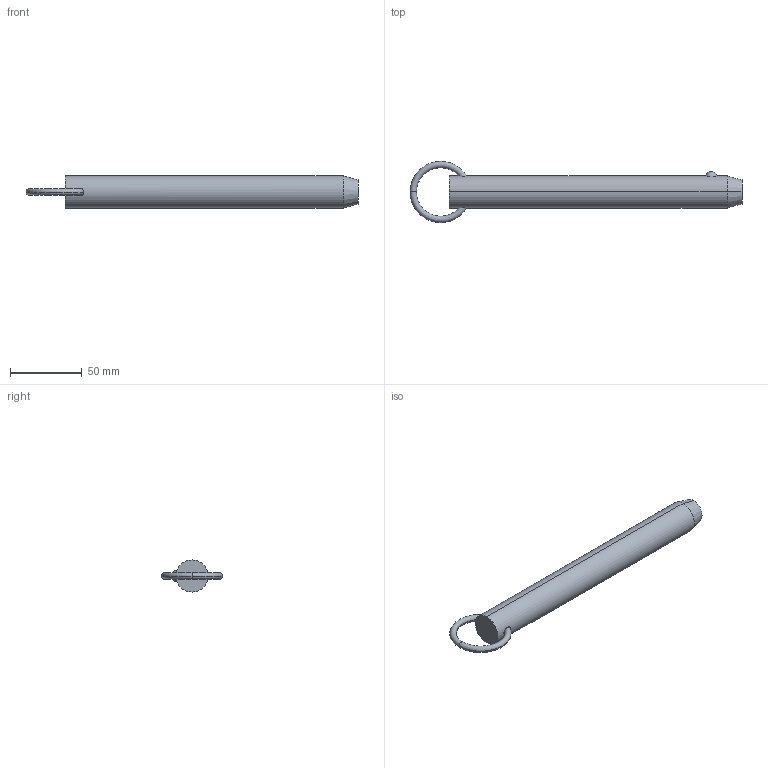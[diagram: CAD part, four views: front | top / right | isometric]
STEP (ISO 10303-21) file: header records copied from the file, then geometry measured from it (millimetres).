
FILE_DESCRIPTION (( 'STEP AP203' ), '1' );
FILE_NAME ('33010.W8865.step', '2024-11-01T10:46:45', ( '' ), ( '' ), 'SwSTEP 2.0', 'SolidWorks 2019', '' );
FILE_SCHEMA (( 'CONFIG_CONTROL_DESIGN' ));
Length unit declared in the file: millimetre
Products named in the file (3): 33010.W8865; Part1_33010.W8865; Part2_33010.W8865
Assembly tree (2 placements, depth 2):
  33010.W8865
    Part1_33010.W8865
    Part2_33010.W8865
Bounding box: 230.56 x 42.55 x 22.23 mm (x, y, z)
Volume: 79334.5 mm3; surface area: 16786 mm2
Topology: 2 solids, 2 shells, 16 faces, 31 edges, 18 vertices
Faces by surface type: torus 8, sphere 2, cone 2, cylinder 2, plane 2
Entity records: 903 total; most frequent: CARTESIAN_POINT 260, DIRECTION 88, ORIENTED_EDGE 62, AXIS2_PLACEMENT_3D 42, EDGE_CURVE 31, PERSON_AND_ORGANIZATION 26, CIRCLE 21, CALENDAR_DATE 19
